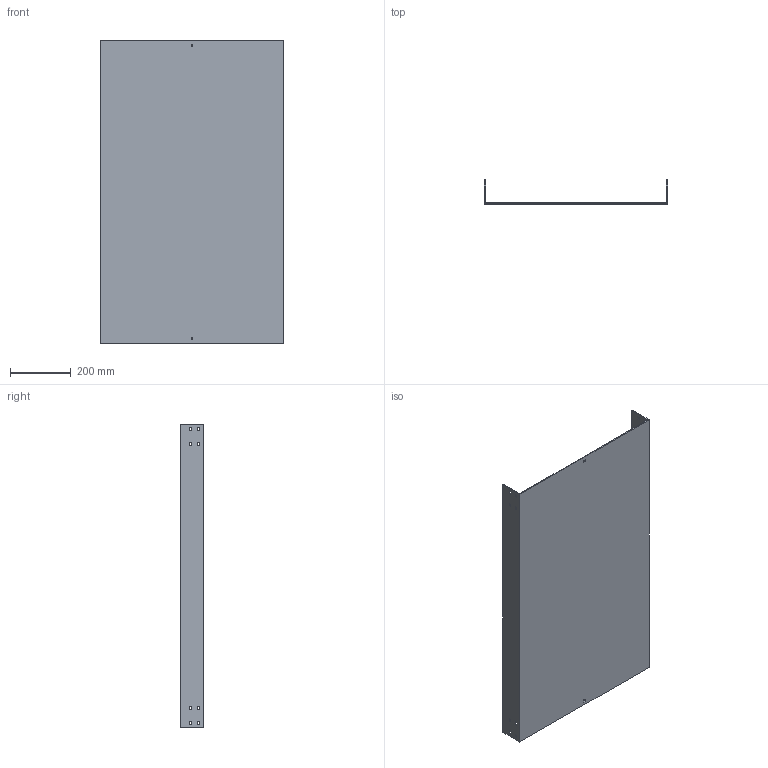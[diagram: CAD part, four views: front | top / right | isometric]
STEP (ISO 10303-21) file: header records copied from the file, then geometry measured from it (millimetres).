
FILE_DESCRIPTION (( 'STEP AP214' ), '1' );
FILE_NAME ('03F1C600.step', '2025-02-21T13:31:34', ( '' ), ( '' ), 'SwSTEP 2.0', 'SolidWorks 2023', '' );
FILE_SCHEMA (( 'AUTOMOTIVE_DESIGN' ));
Length unit declared in the file: millimetre
Products named in the file (1): 03F1C600
Bounding box: 604 x 79 x 1000 mm (x, y, z)
Volume: 2638170.5 mm3; surface area: 1521932 mm2
Topology: 1 solids, 1 shells, 82 faces, 240 edges, 160 vertices
Faces by surface type: plane 82
Entity records: 2759 total; most frequent: CARTESIAN_POINT 483, ORIENTED_EDGE 480, DIRECTION 406, EDGE_CURVE 240, LINE 240, VECTOR 240, VERTEX_POINT 160, EDGE_LOOP 118
